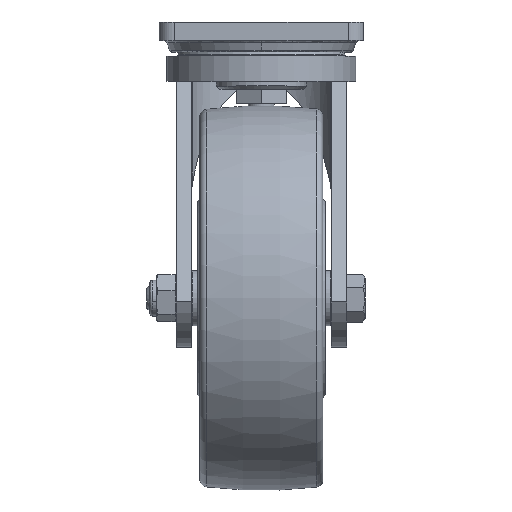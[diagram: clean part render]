
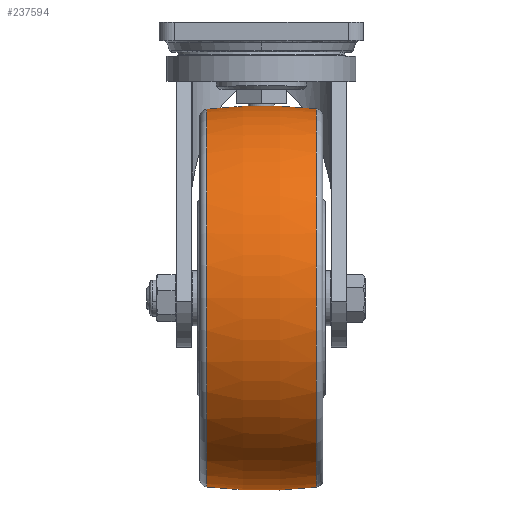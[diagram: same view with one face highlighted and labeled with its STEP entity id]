
A CAD part, top view. The second image highlights one B-rep face of the part: STEP entity #237594.
In plain terms, the highlighted toroidal (fillet/blend) face has major radius 175 mm and minor radius 300 mm.
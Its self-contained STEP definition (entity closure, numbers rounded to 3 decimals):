
#14474 = DIRECTION ( 'NONE',  ( 0., 0., 1. ) ) ;
#30907 = VERTEX_POINT ( 'NONE', #330847 ) ;
#44745 = DIRECTION ( 'NONE',  ( 0., -1., 0. ) ) ;
#46891 = DIRECTION ( 'NONE',  ( 1., 0., 0. ) ) ;
#108283 = AXIS2_PLACEMENT_3D ( 'NONE', #323191, #46891, #257533 ) ;
#117442 = CIRCLE ( 'NONE', #108283, 300. ) ;
#120953 = AXIS2_PLACEMENT_3D ( 'NONE', #305905, #336160, #270437 ) ;
#166894 = ORIENTED_EDGE ( 'NONE', *, *, #317918, .F. ) ;
#170605 = AXIS2_PLACEMENT_3D ( 'NONE', #373854, #14474, #44745 ) ;
#192705 = CIRCLE ( 'NONE', #120953, 300. ) ;
#194225 = AXIS2_PLACEMENT_3D ( 'NONE', #382082, #320260, #258448 ) ;
#195908 = ORIENTED_EDGE ( 'NONE', *, *, #351534, .F. ) ;
#203935 = TOROIDAL_SURFACE ( 'NONE', #231161, -175., 300. ) ;
#217384 = EDGE_CURVE ( 'NONE', #30907, #264186, #246997, .T. ) ;
#219384 = ORIENTED_EDGE ( 'NONE', *, *, #318883, .T. ) ;
#231161 = AXIS2_PLACEMENT_3D ( 'NONE', #329428, #366169, #308248 ) ;
#237594 = ADVANCED_FACE ( 'NONE', ( #316947 ), #203935, .T. ) ;
#246997 = CIRCLE ( 'NONE', #170605, 122.789 ) ;
#249924 = CARTESIAN_POINT ( 'NONE',  ( 0., -122.789, -35.606 ) ) ;
#257533 = DIRECTION ( 'NONE',  ( 0., 1., 0. ) ) ;
#258448 = DIRECTION ( 'NONE',  ( 0., -1., 0. ) ) ;
#264186 = VERTEX_POINT ( 'NONE', #249924 ) ;
#270437 = DIRECTION ( 'NONE',  ( 0., 0., 1. ) ) ;
#277592 = CARTESIAN_POINT ( 'NONE',  ( 0., -122.971, 35.581 ) ) ;
#282503 = ORIENTED_EDGE ( 'NONE', *, *, #217384, .T. ) ;
#305905 = CARTESIAN_POINT ( 'NONE',  ( 0., 175., 0.75 ) ) ;
#308248 = DIRECTION ( 'NONE',  ( 0., -1., 0. ) ) ;
#311821 = VERTEX_POINT ( 'NONE', #277592 ) ;
#313338 = CARTESIAN_POINT ( 'NONE',  ( 0., 122.971, 35.581 ) ) ;
#316947 = FACE_OUTER_BOUND ( 'NONE', #339001, .T. ) ;
#317918 = EDGE_CURVE ( 'NONE', #30907, #356490, #117442, .T. ) ;
#318883 = EDGE_CURVE ( 'NONE', #264186, #311821, #192705, .T. ) ;
#320260 = DIRECTION ( 'NONE',  ( 0., 0., 1. ) ) ;
#323191 = CARTESIAN_POINT ( 'NONE',  ( 0., -175., 0.75 ) ) ;
#329428 = CARTESIAN_POINT ( 'NONE',  ( 0., 0., 0.75 ) ) ;
#330847 = CARTESIAN_POINT ( 'NONE',  ( 0., 122.789, -35.606 ) ) ;
#333560 = CIRCLE ( 'NONE', #194225, 122.971 ) ;
#336160 = DIRECTION ( 'NONE',  ( -1., 0., 0. ) ) ;
#339001 = EDGE_LOOP ( 'NONE', ( #166894, #282503, #219384, #195908 ) ) ;
#351534 = EDGE_CURVE ( 'NONE', #356490, #311821, #333560, .T. ) ;
#356490 = VERTEX_POINT ( 'NONE', #313338 ) ;
#366169 = DIRECTION ( 'NONE',  ( 0., 0., 1. ) ) ;
#373854 = CARTESIAN_POINT ( 'NONE',  ( 0., 0., -35.606 ) ) ;
#382082 = CARTESIAN_POINT ( 'NONE',  ( 0., 0., 35.581 ) ) ;
